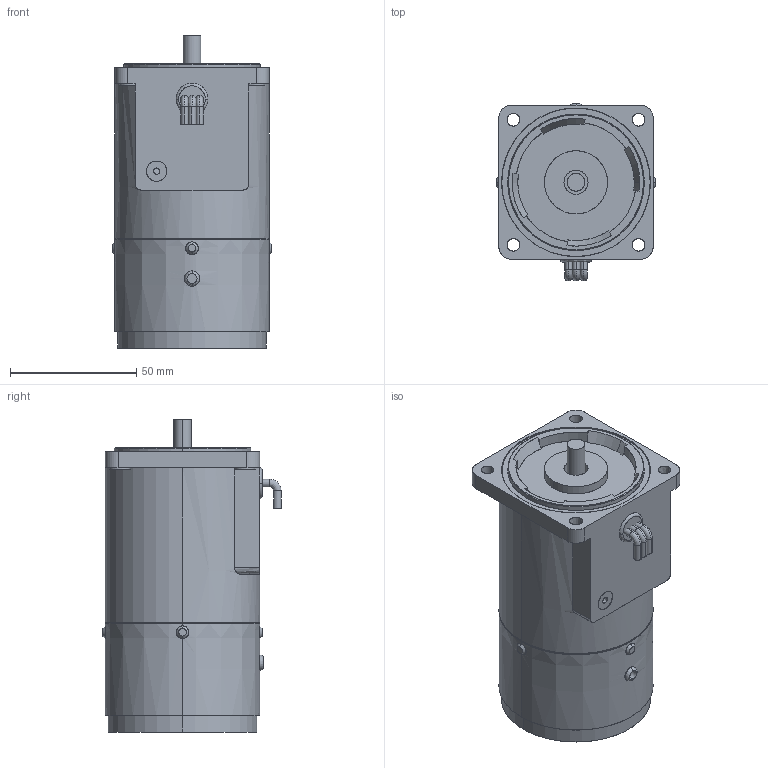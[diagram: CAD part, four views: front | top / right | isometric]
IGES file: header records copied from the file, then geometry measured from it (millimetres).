
Start section: SolidWorks IGES file using analytic representation for surfaces
Bounding box: 63 x 70.5 x 123.5 mm (x, y, z)
Surface area: 52731.8 mm2 (no closed solid volume)
Topology: 0 solids, 0 shells, 173 faces, 3484 edges, 3484 vertices
Faces by surface type: revolution 92, bspline 81
